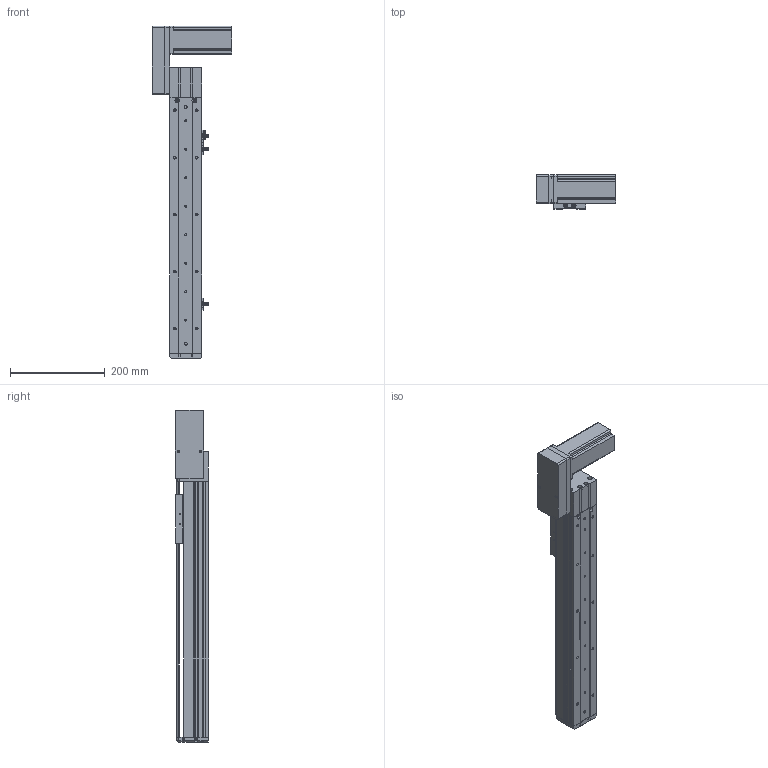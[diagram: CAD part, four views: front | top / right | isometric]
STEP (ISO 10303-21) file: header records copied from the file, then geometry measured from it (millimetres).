
FILE_DESCRIPTION (( 'STEP AP214' ), '1' );
FILE_NAME ('KSD68BS-S350-MRB-CM.STEP', '2019-11-06T07:20:38', ( '微软用户' ), ( '微软中国' ), 'SwSTEP 2.0', 'SolidWorks 2014', '' );
FILE_SCHEMA (( 'AUTOMOTIVE_DESIGN' ));
Length unit declared in the file: millimetre
Products named in the file (11): 悵誘欶奻狟殏; 68宽马达安装板连板上折同步带; 68宽单导轨半封闭同步带主动轮座右; 68单导轨同步带半封闭端板; KSD68BS 350俴最裔啣圉猾敕; 覜茼え68遵圉猾敕; KSD68BS半封闭同步带传动导轨座; U倰嫖萇EEㄜSX672; 台达ECMA－C20604AS伺服电机（400W); KSD68BS 350俴最菁啣圉猾敕; KSD68BS-S350-MRB-CM
Assembly tree (12 placements, depth 2):
  KSD68BS-S350-MRB-CM
    KSD68BS 350俴最菁啣圉猾敕
    台达ECMA－C20604AS伺服电机（400W)
    U倰嫖萇EEㄜSX672  x3
    KSD68BS半封闭同步带传动导轨座
    覜茼え68遵圉猾敕
    KSD68BS 350俴最裔啣圉猾敕
    68单导轨同步带半封闭端板
    68宽单导轨半封闭同步带主动轮座右
    68宽马达安装板连板上折同步带
    悵誘欶奻狟殏
Bounding box: 167.2 x 70.5 x 699.5 mm (x, y, z)
Volume: 1550676.9 mm3; surface area: 486351.2 mm2
Topology: 13 solids, 13 shells, 1234 faces, 3484 edges, 2260 vertices
Faces by surface type: cylinder 586, plane 565, cone 83
Entity records: 43001 total; most frequent: CARTESIAN_POINT 7754, DIRECTION 5768, ORIENTED_EDGE 5720, EDGE_CURVE 2860, AXIS2_PLACEMENT_3D 2058, VERTEX_POINT 1884, VECTOR 1652, LINE 1652
